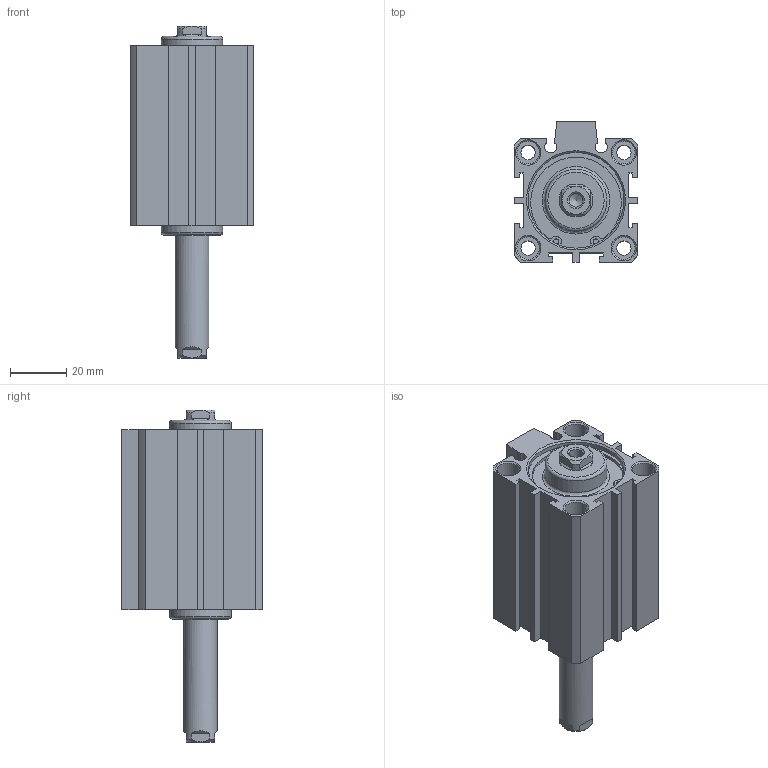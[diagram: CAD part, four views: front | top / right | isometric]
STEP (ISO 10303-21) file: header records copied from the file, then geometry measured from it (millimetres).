
FILE_DESCRIPTION((''),'2;1');
FILE_NAME('I:\3D電子目錄\氣缸\JDD\JDD\JDD32\JDD32x40.stp','2007-02-08T10:17:15',('662F206'),(''),'Autodesk Inventor 10','Autodesk Inventor 10','');
FILE_SCHEMA(('AUTOMOTIVE_DESIGN { 1 0 10303 214 1 1 1 1 }'));
Length unit declared in the file: millimetre
Products named in the file (3): JDD32; R 形環 35
Assembly tree (3 placements, depth 2):
  JDD32
    JDD32
    R 形環 35  x2
Bounding box: 44 x 50 x 118 mm (x, y, z)
Volume: 112550.3 mm3; surface area: 30924 mm2
Topology: 3 solids, 3 shells, 177 faces, 425 edges, 276 vertices
Faces by surface type: plane 94, cylinder 49, cone 22, bspline 10, torus 2
Full cylindrical faces by diameter (mm): 1.9 x4, 2.2 x2, 5.1 x4, 8 x8, 12 x1, 22 x2, 34 x4, 36 x2
Entity records: 4715 total; most frequent: CARTESIAN_POINT 983, DIRECTION 774, ORIENTED_EDGE 674, EDGE_CURVE 337, AXIS2_PLACEMENT_3D 292, EDGE_LOOP 248, VERTEX_POINT 247, VECTOR 190
